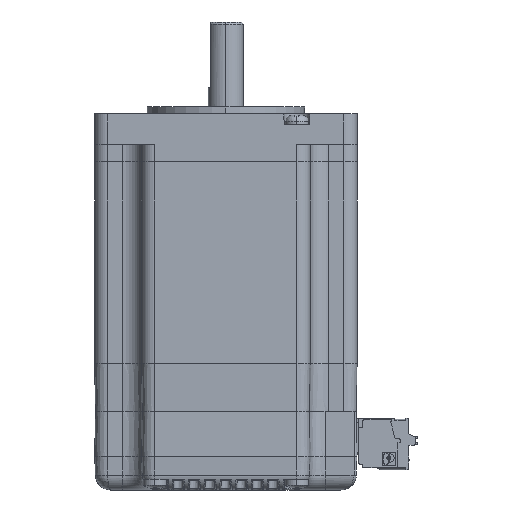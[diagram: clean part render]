
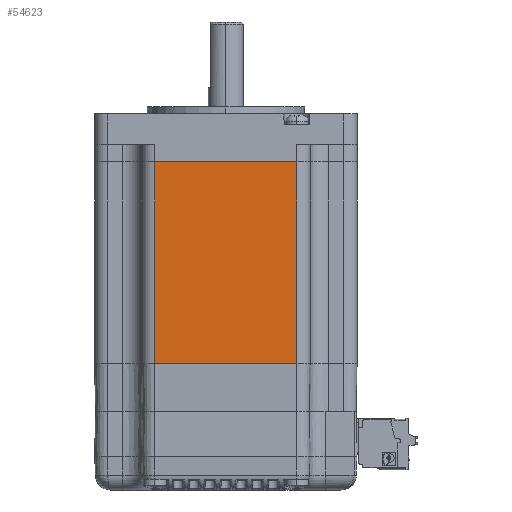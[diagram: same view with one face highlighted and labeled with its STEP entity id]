
A CAD part, left-side view. The second image highlights one B-rep face of the part: STEP entity #54623.
In plain terms, the highlighted planar face has unit normal (-1, 0, 0).
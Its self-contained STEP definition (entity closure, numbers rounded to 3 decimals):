
#5120 = VERTEX_POINT ( 'NONE', #91029 ) ;
#11909 = CARTESIAN_POINT ( 'NONE',  ( -29.995, 16.245, -57. ) ) ;
#12045 = VECTOR ( 'NONE', #20873, 1000. ) ;
#14798 = LINE ( 'NONE', #30331, #231099 ) ;
#20873 = DIRECTION ( 'NONE',  ( 0., 0., 1. ) ) ;
#25142 = LINE ( 'NONE', #11909, #147228 ) ;
#27146 = ORIENTED_EDGE ( 'NONE', *, *, #148150, .F. ) ;
#30331 = CARTESIAN_POINT ( 'NONE',  ( -29.995, -16.245, -142.701 ) ) ;
#31527 = VECTOR ( 'NONE', #175147, 1000. ) ;
#36236 = VERTEX_POINT ( 'NONE', #85180 ) ;
#54623 = ADVANCED_FACE ( 'NONE', ( #122802 ), #163180, .T. ) ;
#55533 = EDGE_CURVE ( 'NONE', #158390, #5120, #25142, .T. ) ;
#63191 = DIRECTION ( 'NONE',  ( 0., -1., 0. ) ) ;
#69560 = DIRECTION ( 'NONE',  ( 0., 0., 1. ) ) ;
#72978 = ORIENTED_EDGE ( 'NONE', *, *, #190880, .F. ) ;
#85180 = CARTESIAN_POINT ( 'NONE',  ( -29.995, 16.245, -11. ) ) ;
#87008 = CARTESIAN_POINT ( 'NONE',  ( -29.995, 16.245, -142.701 ) ) ;
#91029 = CARTESIAN_POINT ( 'NONE',  ( -29.995, -16.245, -57. ) ) ;
#102451 = LINE ( 'NONE', #226349, #31527 ) ;
#106051 = DIRECTION ( 'NONE',  ( -1., 0., 0. ) ) ;
#107228 = DIRECTION ( 'NONE',  ( 0., -1., 0. ) ) ;
#109177 = EDGE_LOOP ( 'NONE', ( #138652, #146129, #27146, #72978 ) ) ;
#111159 = CARTESIAN_POINT ( 'NONE',  ( -29.995, -16.245, -11. ) ) ;
#122802 = FACE_OUTER_BOUND ( 'NONE', #109177, .T. ) ;
#126215 = VERTEX_POINT ( 'NONE', #111159 ) ;
#138652 = ORIENTED_EDGE ( 'NONE', *, *, #55533, .T. ) ;
#146129 = ORIENTED_EDGE ( 'NONE', *, *, #202517, .T. ) ;
#147228 = VECTOR ( 'NONE', #63191, 1000. ) ;
#148150 = EDGE_CURVE ( 'NONE', #36236, #126215, #102451, .T. ) ;
#158390 = VERTEX_POINT ( 'NONE', #174660 ) ;
#163180 = PLANE ( 'NONE',  #177215 ) ;
#174660 = CARTESIAN_POINT ( 'NONE',  ( -29.995, 16.245, -57. ) ) ;
#175147 = DIRECTION ( 'NONE',  ( 0., -1., 0. ) ) ;
#177215 = AXIS2_PLACEMENT_3D ( 'NONE', #87008, #106051, #107228 ) ;
#184093 = LINE ( 'NONE', #205388, #12045 ) ;
#190880 = EDGE_CURVE ( 'NONE', #158390, #36236, #184093, .T. ) ;
#202517 = EDGE_CURVE ( 'NONE', #5120, #126215, #14798, .T. ) ;
#205388 = CARTESIAN_POINT ( 'NONE',  ( -29.995, 16.245, -142.701 ) ) ;
#226349 = CARTESIAN_POINT ( 'NONE',  ( -29.995, 16.245, -11. ) ) ;
#231099 = VECTOR ( 'NONE', #69560, 1000. ) ;
